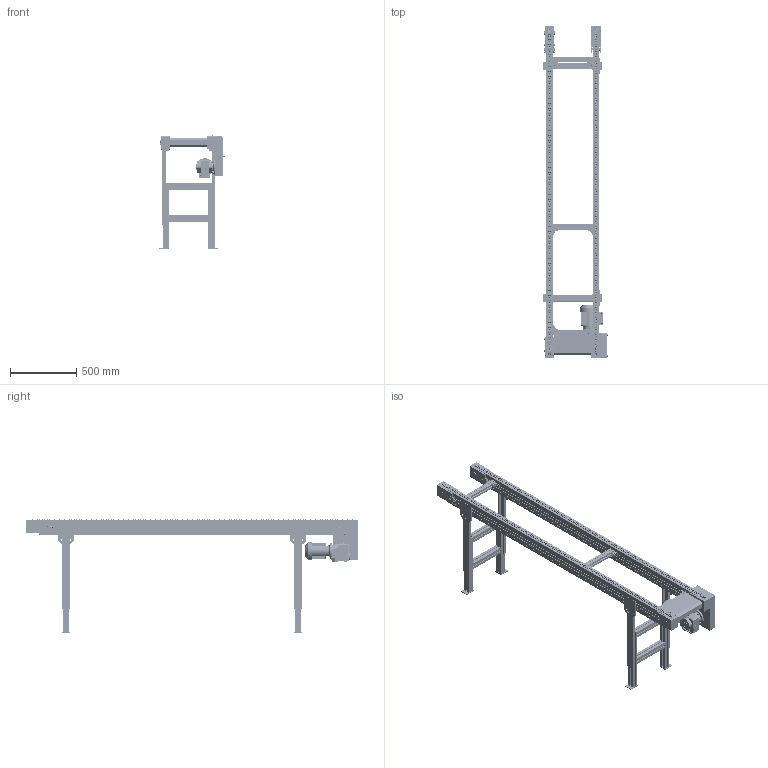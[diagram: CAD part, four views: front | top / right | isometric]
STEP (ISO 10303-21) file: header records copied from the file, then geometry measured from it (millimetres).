
FILE_DESCRIPTION(/* description */ (''),/* implementation_level */ '2;1');
FILE_NAME(/* name */ 'C:\Marketing\01_Versamove-SPU_STEP-Dateien-Homepage\Versamove plus\STEP-Dateien\Kettenförderer_KTF-P-2010_B400_L2500.stp',/* time_stamp */ '2016-12-22T09:40:13+01:00',/* author */ ('herbert.engels'),/* organization */ (''),/* preprocessor_version */ 'ST-DEVELOPER v15.6',/* originating_system */ 'Autodesk Inventor 2015',/* authorisation */ '');
FILE_SCHEMA (('CONFIG_CONTROL_DESIGN'));
Products named in the file (1): Kettenförderer_KTF-P-2010_B400_L2500
Bounding box: 490.6 x 2503 x 852.55 mm (x, y, z)
Volume: 40433744 mm3; surface area: 6194189.9 mm2
Topology: 13 solids, 13 shells, 9451 faces, 24678 edges, 16020 vertices
Faces by surface type: plane 4823, cylinder 4214, torus 214, cone 169, bspline 23, sphere 8
Full cylindrical faces by diameter (mm): 2 x2, 4.45 x758, 5.459 x4, 6 x21, 6.6 x4, 7 x8, 8 x39, 8.51 x384, 8.8 x19, 9.5 x2, 11.8 x760, 12 x6, 13 x12, 14 x3, 16.2 x4, 19 x3, 20 x6, 24 x1, 25 x1, 25.5 x4, 35 x12, 37 x1, 38 x1, 40 x4, 43 x1, 52 x1, 56 x2, 62 x2, 73 x8, 80 x3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
Entity records: 290087 total; most frequent: CARTESIAN_POINT 51951, DIRECTION 49699, ORIENTED_EDGE 44054, EDGE_CURVE 21648, AXIS2_PLACEMENT_3D 19728, VERTEX_POINT 15169, EDGE_LOOP 13912, LINE 10243
